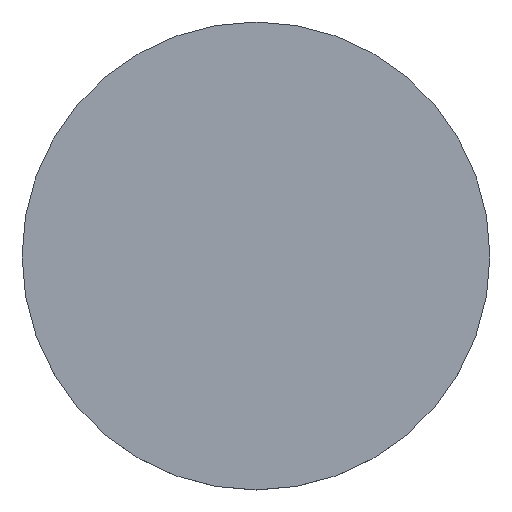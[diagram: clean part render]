
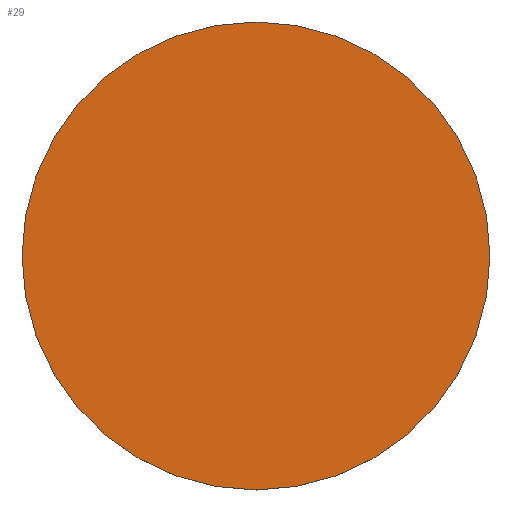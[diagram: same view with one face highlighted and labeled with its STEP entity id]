
A CAD part, top view. The second image highlights one B-rep face of the part: STEP entity #29.
In plain terms, the highlighted planar face has unit normal (0, 0, 1).
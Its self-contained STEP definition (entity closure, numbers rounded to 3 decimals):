
#29 = ADVANCED_FACE( '', ( #53 ), #54, .F. );
#53 = FACE_OUTER_BOUND( '', #70, .T. );
#54 = PLANE( '', #71 );
#70 = EDGE_LOOP( '', ( #83 ) );
#71 = AXIS2_PLACEMENT_3D( '', #84, #85, #86 );
#83 = ORIENTED_EDGE( '', *, *, #96, .F. );
#84 = CARTESIAN_POINT( '', ( 0., 0., 10. ) );
#85 = DIRECTION( '', ( 0., 0., -1. ) );
#86 = DIRECTION( '', ( -1., 0., 0. ) );
#96 = EDGE_CURVE( '', #102, #102, #103, .T. );
#102 = VERTEX_POINT( '', #109 );
#103 = CIRCLE( '', #110, 85. );
#109 = CARTESIAN_POINT( '', ( 85., 0., 10. ) );
#110 = AXIS2_PLACEMENT_3D( '', #115, #116, #117 );
#115 = CARTESIAN_POINT( '', ( 0., 0., 10. ) );
#116 = DIRECTION( '', ( 0., 0., -1. ) );
#117 = DIRECTION( '', ( 1., 0., 0. ) );
